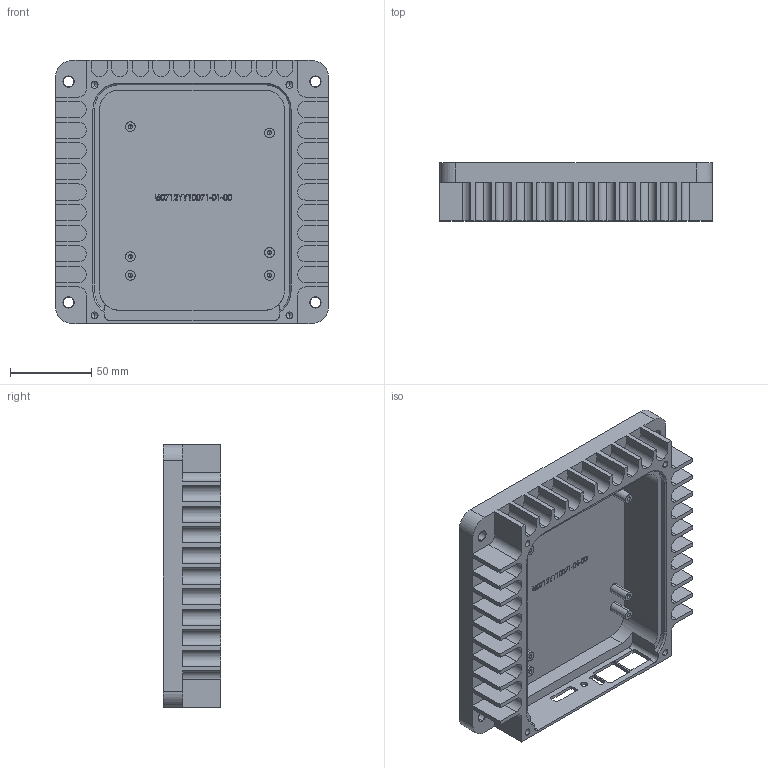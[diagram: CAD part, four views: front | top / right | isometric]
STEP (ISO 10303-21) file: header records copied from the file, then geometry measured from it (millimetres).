
FILE_DESCRIPTION (( 'STEP AP203' ), '1' );
FILE_NAME ('SMT1024 Base.STEP', '2021-12-01T14:03:01', ( '' ), ( '' ), 'SwSTEP 2.0', 'SolidWorks 2020', '' );
FILE_SCHEMA (( 'CONFIG_CONTROL_DESIGN' ));
Length unit declared in the file: millimetre
Products named in the file (1): SMT1024 Base
Bounding box: 168 x 35.6 x 162 mm (x, y, z)
Volume: 309260.9 mm3; surface area: 113553 mm2
Topology: 1 solids, 1 shells, 465 faces, 1275 edges, 827 vertices
Faces by surface type: plane 242, cylinder 114, bspline 69, cone 40
Entity records: 22025 total; most frequent: CARTESIAN_POINT 10645, ORIENTED_EDGE 2510, DIRECTION 2071, EDGE_CURVE 1255, VERTEX_POINT 827, VECTOR 777, LINE 777, AXIS2_PLACEMENT_3D 647
